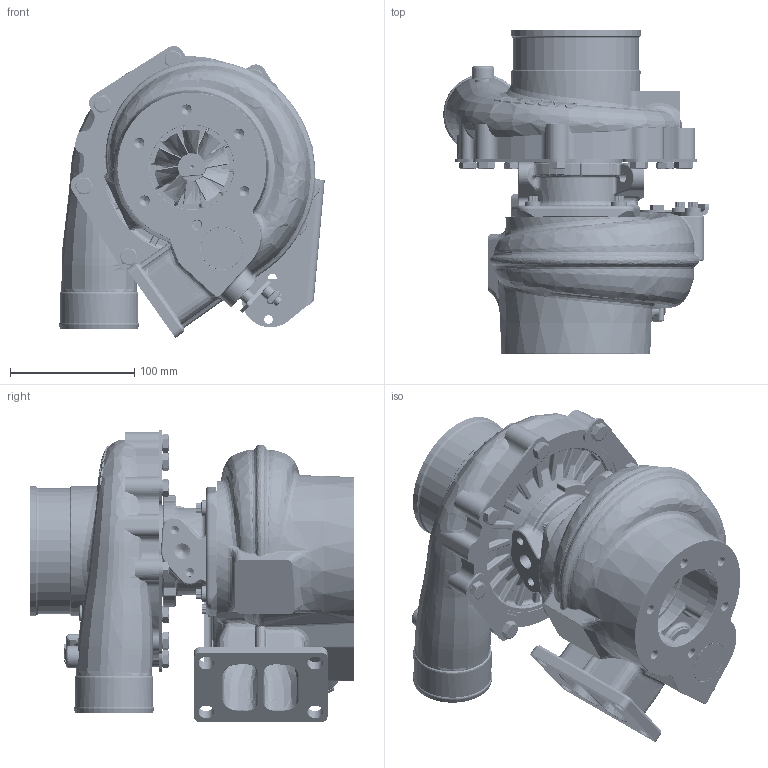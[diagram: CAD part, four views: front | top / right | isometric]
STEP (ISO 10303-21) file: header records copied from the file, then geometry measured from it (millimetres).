
FILE_DESCRIPTION(/* description */ ('CAx-IF Rec.Pracs.---Representation and Presentation of Product Manufacturing Information (PMI)---4.0---2014-10-13','CAx-IF Rec.Pracs.---3D Tessellated Geometry---0.4---2014-09-14','2;1'),/* implementation_level */ '2;1');
FILE_NAME(/* name */ 'Garret_Turbocharger_GT37',/* time_stamp */ '2017-12-18T10:59:41+01:00',/* author */ (''),/* organization */ (''),/* preprocessor_version */ 'ST-DEVELOPER v16.7',/* originating_system */ $,/* authorisation */ $);
FILE_SCHEMA (('AP242_MANAGED_MODEL_BASED_3D_ENGINEERING_MIM_LF { 1 0 10303 442 20130219 1 4 }'));
Products named in the file (31): Garret_Turbocharger_GT37; Screw_M_E; Washer_I; Subassembly_Exhaust; LockingRing_Wastegate_E; Bearing_Wastegate_E; Housing_E; Plate_Wastegate_E_stp; Cover_Plate_E; Arm_Wastegate_E; Valve_Wastegate_E; Rod_Wastegate_E; Screw_Wastegate_E; Washer_Wastegate_E; Subassembly_Impeller_Axle; Bearing_IA; Distance_IA_stp; Inner_Thrustbearing_M; Impeller_Exhaust_IA; Impeller_Intake_IA; Subassembly_Intake; Disc_I; Connector_I; Compressor_I; PLATE_I_stp1; Screw_I; Sign_Compressor_I; Subassembly_Midsection; Shield_M_stp; Housing_M; Outer_Thrustbearing_M
Assembly tree (53 placements, depth 3):
  Garret_Turbocharger_GT37
    Screw_M_E  x8
    Washer_I  x4
    Subassembly_Exhaust
      LockingRing_Wastegate_E
      Bearing_Wastegate_E
      Housing_E
      Plate_Wastegate_E_stp
      Screw_M_E  x2
      Cover_Plate_E
      Arm_Wastegate_E
      Valve_Wastegate_E
      Rod_Wastegate_E
      Screw_Wastegate_E
      Washer_Wastegate_E
    Subassembly_Impeller_Axle
      Bearing_IA  x2
      Distance_IA_stp
      Inner_Thrustbearing_M
      Impeller_Exhaust_IA
      Impeller_Intake_IA
    Subassembly_Intake
      Disc_I
      Connector_I
      Compressor_I
      PLATE_I_stp1  x4
      Screw_I  x8
      Sign_Compressor_I
    Subassembly_Midsection
      Shield_M_stp
      Housing_M
      Outer_Thrustbearing_M
Bounding box: 213.4 x 260.28 x 234.66 mm (x, y, z)
Volume: 2350806.4 mm3; surface area: 686461.1 mm2
Topology: 49 solids, 49 shells, 3942 faces, 10654 edges, 7039 vertices
Faces by surface type: plane 1354, cylinder 1039, bspline 1000, torus 395, cone 132, sphere 22
Full cylindrical faces by diameter (mm): 1 x4, 2 x30, 2.5 x2, 3 x2, 4 x6, 5 x6, 5.5 x1, 6 x3, 6.5 x1, 7 x48, 7.003 x1, 7.5 x7, 8 x10, 9 x7, 9.5 x4, 10 x8, 11 x1, 11.5 x4, 11.7 x1, 12 x1, 12.397 x4, 12.5 x1, 13 x23, 14 x6, 14.5 x1, 15 x1, 16 x1, 17 x4, 18 x6, 19 x2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
Entity records: 169251 total; most frequent: CARTESIAN_POINT 84437, ORIENTED_EDGE 17602, DIRECTION 13096, EDGE_CURVE 8801, VERTEX_POINT 6104, AXIS2_PLACEMENT_3D 5413, FACE_BOUND 4335, EDGE_LOOP 4312
